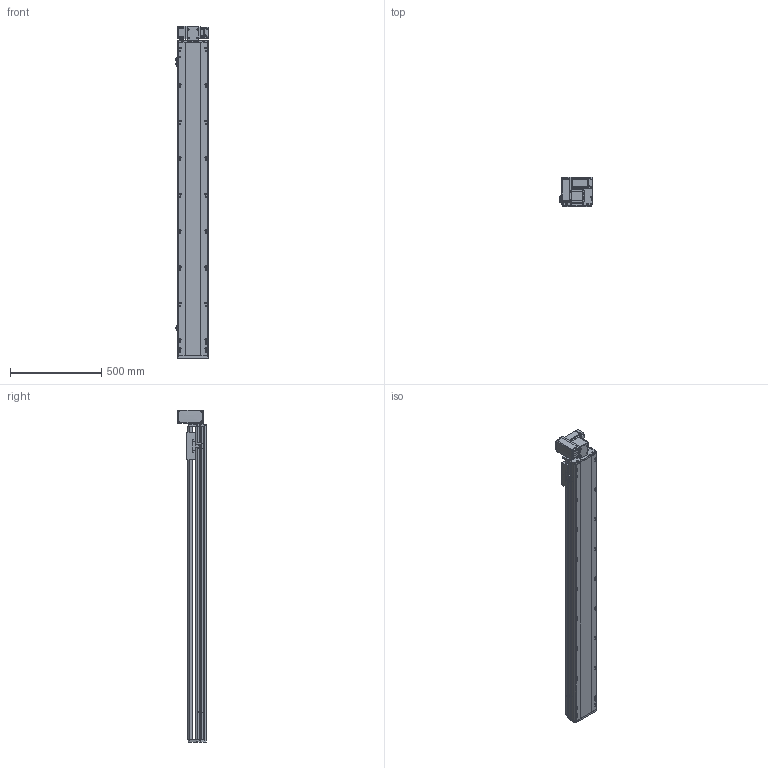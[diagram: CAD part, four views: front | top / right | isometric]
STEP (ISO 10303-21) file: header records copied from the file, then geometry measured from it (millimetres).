
FILE_DESCRIPTION (( 'STEP AP214' ), '1' );
FILE_NAME ('RTB17S-XX-1450-LW-M40-C4.STEP', '2025-12-11T07:07:32', ( '' ), ( '' ), 'SwSTEP 2.0', 'SolidWorks 2018', '' );
FILE_SCHEMA (( 'AUTOMOTIVE_DESIGN' ));
Length unit declared in the file: millimetre
Products named in the file (14): RTB17S-L-001耜醱啣^RTB17S-XX-XX-LW-M40-C4; RTB14-L-018P^RTB17S-LW-々湍釱蚾饜-400W_RTB17S-XX-XX-LW-M40-C4; 400W侜督萇儂^RTB17S-XX-XX-LW-M40-C4; RTB17S-L-014-T20--々湍釱^RTB17S-LW-々湍釱蚾饜-400W_RTB17S-XX-XX-LW-M40-C4; RTB17S-L-007奻裔^RTB17S-XX-XX-LW-M40-C4; RTB17S-LW-々湍釱蚾饜-400W^RTB17S-XX-XX-LW-M40-C4; RTB17S-XX-1450-LW-M40-C4; RTB14-L-017P^RTB17S-LW-々湍釱蚾饜-400W_RTB17S-XX-XX-LW-M40-C4; RTB17S-L-004佪裝蹟譫蟀諉釱^RTB17S-XX-XX-LW-M40-C4; RTB14-L-008-M20--萇儂啣^RTB17S-LW-々湍釱蚾饜-400W_RTB17S-XX-XX-LW-M40-C4; RTB17-R-011菁釱^RTB17S-XX-XX-LW-M40-C4; RTH13-BL-012覜茼え俋离^RTB17S-XX-XX-LW-M40-C4; RTB14-L-005P--轴承塑胶压盖^RTB17S-LW-皮带座装配-400W_RTB17S-XX-XX-LW-M40-C4; OMRON EE-SX672 传感器^RTB17S-XX-XX-LW-M40-C4
Assembly tree (16 placements, depth 3):
  RTB17S-XX-1450-LW-M40-C4
    RTB17-R-011菁釱^RTB17S-XX-XX-LW-M40-C4
    RTB17S-L-007奻裔^RTB17S-XX-XX-LW-M40-C4
    OMRON EE-SX672 传感器^RTB17S-XX-XX-LW-M40-C4  x3
    RTB17S-L-001耜醱啣^RTB17S-XX-XX-LW-M40-C4
    400W侜督萇儂^RTB17S-XX-XX-LW-M40-C4
    RTB17S-L-004佪裝蹟譫蟀諉釱^RTB17S-XX-XX-LW-M40-C4
    RTH13-BL-012覜茼え俋离^RTB17S-XX-XX-LW-M40-C4
    RTB17S-LW-々湍釱蚾饜-400W^RTB17S-XX-XX-LW-M40-C4
      RTB17S-L-014-T20--々湍釱^RTB17S-LW-々湍釱蚾饜-400W_RTB17S-XX-XX-LW-M40-C4
      RTB14-L-005P--轴承塑胶压盖^RTB17S-LW-皮带座装配-400W_RTB17S-XX-XX-LW-M40-C4
      RTB14-L-008-M20--萇儂啣^RTB17S-LW-々湍釱蚾饜-400W_RTB17S-XX-XX-LW-M40-C4
      RTB14-L-017P^RTB17S-LW-々湍釱蚾饜-400W_RTB17S-XX-XX-LW-M40-C4  x2
      RTB14-L-018P^RTB17S-LW-々湍釱蚾饜-400W_RTB17S-XX-XX-LW-M40-C4
Bounding box: 186 x 160.5 x 1822.5 mm (x, y, z)
Volume: 16038831.2 mm3; surface area: 1900044.6 mm2
Topology: 15 solids, 15 shells, 2253 faces, 6249 edges, 4077 vertices
Faces by surface type: plane 1074, cylinder 731, bspline 301, cone 139, torus 8
Entity records: 64937 total; most frequent: CARTESIAN_POINT 18254, ORIENTED_EDGE 9342, DIRECTION 8666, EDGE_CURVE 4671, VERTEX_POINT 3065, AXIS2_PLACEMENT_3D 2995, VECTOR 2676, LINE 2676
